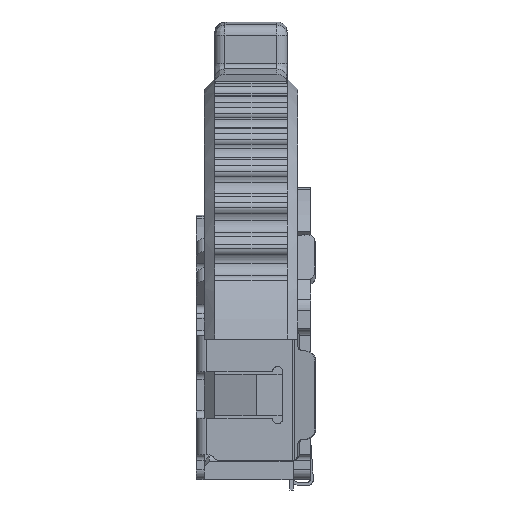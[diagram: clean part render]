
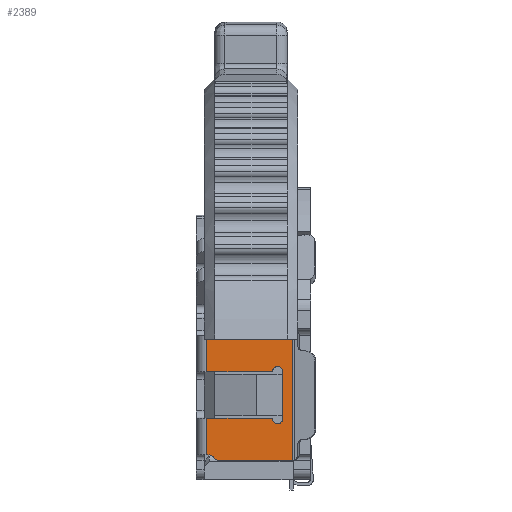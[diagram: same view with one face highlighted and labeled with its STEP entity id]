
A CAD part, left-side view. The second image highlights one B-rep face of the part: STEP entity #2389.
In plain terms, the highlighted planar face has unit normal (-1, 0, 0).
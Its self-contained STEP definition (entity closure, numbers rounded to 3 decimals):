
#1981 = EDGE_CURVE ( 'NONE', #2178, #1983, #14285, .T. ) ;
#1983 = VERTEX_POINT ( 'NONE', #14210 ) ;
#2090 = EDGE_CURVE ( 'NONE', #2122, #2100, #14713, .T. ) ;
#2100 = VERTEX_POINT ( 'NONE', #14719 ) ;
#2119 = VERTEX_POINT ( 'NONE', #14703 ) ;
#2121 = EDGE_CURVE ( 'NONE', #2119, #2122, #14672, .T. ) ;
#2122 = VERTEX_POINT ( 'NONE', #14660 ) ;
#2131 = VERTEX_POINT ( 'NONE', #14640 ) ;
#2153 = EDGE_CURVE ( 'NONE', #2172, #11863, #14700, .T. ) ;
#2161 = VERTEX_POINT ( 'NONE', #14696 ) ;
#2172 = VERTEX_POINT ( 'NONE', #14859 ) ;
#2177 = EDGE_CURVE ( 'NONE', #2161, #2178, #14842, .T. ) ;
#2178 = VERTEX_POINT ( 'NONE', #14791 ) ;
#2190 = EDGE_CURVE ( 'NONE', #2234, #11359, #14816, .T. ) ;
#2192 = VERTEX_POINT ( 'NONE', #14810 ) ;
#2207 = EDGE_CURVE ( 'NONE', #1983, #2172, #14882, .T. ) ;
#2209 = EDGE_CURVE ( 'NONE', #2131, #2192, #14876, .T. ) ;
#2222 = EDGE_CURVE ( 'NONE', #11360, #2161, #15040, .T. ) ;
#2234 = VERTEX_POINT ( 'NONE', #15039 ) ;
#2269 = ORIENTED_EDGE ( 'NONE', *, *, #2327, .F. ) ;
#2270 = ORIENTED_EDGE ( 'NONE', *, *, #2090, .F. ) ;
#2295 = EDGE_CURVE ( 'NONE', #11820, #11777, #14354, .T. ) ;
#2296 = ORIENTED_EDGE ( 'NONE', *, *, #1981, .F. ) ;
#2315 = ORIENTED_EDGE ( 'NONE', *, *, #2207, .F. ) ;
#2327 = EDGE_CURVE ( 'NONE', #2192, #2234, #15449, .T. ) ;
#2346 = ORIENTED_EDGE ( 'NONE', *, *, #2177, .F. ) ;
#2347 = ORIENTED_EDGE ( 'NONE', *, *, #2222, .F. ) ;
#2388 = ORIENTED_EDGE ( 'NONE', *, *, #2190, .F. ) ;
#2389 = ADVANCED_FACE ( 'NONE', ( #15505 ), #15572, .F. ) ;
#2391 = EDGE_LOOP ( 'NONE', ( #2392, #2414, #2393, #2394, #2315, #2296, #2346, #2347, #2398, #2388, #2269, #2395, #2396, #2270, #2425, #2426 ) ) ;
#2392 = ORIENTED_EDGE ( 'NONE', *, *, #12013, .T. ) ;
#2393 = ORIENTED_EDGE ( 'NONE', *, *, #11844, .F. ) ;
#2394 = ORIENTED_EDGE ( 'NONE', *, *, #2153, .F. ) ;
#2395 = ORIENTED_EDGE ( 'NONE', *, *, #2209, .F. ) ;
#2396 = ORIENTED_EDGE ( 'NONE', *, *, #2397, .F. ) ;
#2397 = EDGE_CURVE ( 'NONE', #2100, #2131, #15559, .T. ) ;
#2398 = ORIENTED_EDGE ( 'NONE', *, *, #11357, .T. ) ;
#2413 = EDGE_CURVE ( 'NONE', #11778, #2119, #15874, .T. ) ;
#2414 = ORIENTED_EDGE ( 'NONE', *, *, #2295, .F. ) ;
#2425 = ORIENTED_EDGE ( 'NONE', *, *, #2121, .F. ) ;
#2426 = ORIENTED_EDGE ( 'NONE', *, *, #2413, .F. ) ;
#9396 = DIRECTION ( 'NONE',  ( 0., -1., 0. ) ) ;
#9397 = VECTOR ( 'NONE', #9396, 1000. ) ;
#9400 = CARTESIAN_POINT ( 'NONE',  ( -4.675, 1.1, -0.725 ) ) ;
#9401 = LINE ( 'NONE', #9400, #9397 ) ;
#9442 = CARTESIAN_POINT ( 'NONE',  ( -4.675, 2., -0.725 ) ) ;
#9443 = CARTESIAN_POINT ( 'NONE',  ( -4.675, 1.956, -0.725 ) ) ;
#10330 = CARTESIAN_POINT ( 'NONE',  ( -4.675, 1.956, 1.575 ) ) ;
#10331 = CARTESIAN_POINT ( 'NONE',  ( -4.675, 2., 1.575 ) ) ;
#10582 = CARTESIAN_POINT ( 'NONE',  ( -4.675, 2., 0.875 ) ) ;
#10659 = CARTESIAN_POINT ( 'NONE',  ( -4.675, 0.738, 0.875 ) ) ;
#10675 = DIRECTION ( 'NONE',  ( 0., 1., 0. ) ) ;
#10676 = VECTOR ( 'NONE', #10675, 1000. ) ;
#10677 = CARTESIAN_POINT ( 'NONE',  ( -4.675, 1.177, 0.875 ) ) ;
#10678 = LINE ( 'NONE', #10677, #10676 ) ;
#11357 = EDGE_CURVE ( 'NONE', #11360, #11359, #9401, .T. ) ;
#11359 = VERTEX_POINT ( 'NONE', #9443 ) ;
#11360 = VERTEX_POINT ( 'NONE', #9442 ) ;
#11777 = VERTEX_POINT ( 'NONE', #10331 ) ;
#11778 = VERTEX_POINT ( 'NONE', #10330 ) ;
#11820 = VERTEX_POINT ( 'NONE', #10582 ) ;
#11844 = EDGE_CURVE ( 'NONE', #11863, #11820, #10678, .T. ) ;
#11863 = VERTEX_POINT ( 'NONE', #10659 ) ;
#12013 = EDGE_CURVE ( 'NONE', #11778, #11777, #24947, .T. ) ;
#14210 = CARTESIAN_POINT ( 'NONE',  ( -4.675, 0.538, -0.025 ) ) ;
#14211 = DIRECTION ( 'NONE',  ( 0., -1., 0. ) ) ;
#14212 = DIRECTION ( 'NONE',  ( -1., 0., 0. ) ) ;
#14279 = CARTESIAN_POINT ( 'NONE',  ( -4.675, 0.638, -0.025 ) ) ;
#14280 = AXIS2_PLACEMENT_3D ( 'NONE', #14279, #14212, #14211 ) ;
#14285 = CIRCLE ( 'NONE', #14280, 0.1 ) ;
#14344 = DIRECTION ( 'NONE',  ( 0., 0., 1. ) ) ;
#14346 = VECTOR ( 'NONE', #14344, 1000. ) ;
#14347 = CARTESIAN_POINT ( 'NONE',  ( -4.675, 2., 0.425 ) ) ;
#14354 = LINE ( 'NONE', #14347, #14346 ) ;
#14609 = CARTESIAN_POINT ( 'NONE',  ( -4.675, 0.638, 0.875 ) ) ;
#14640 = CARTESIAN_POINT ( 'NONE',  ( -4.675, 0.355, -0.825 ) ) ;
#14660 = CARTESIAN_POINT ( 'NONE',  ( -4.675, 1.783, 1.675 ) ) ;
#14661 = DIRECTION ( 'NONE',  ( 0., -1., 0. ) ) ;
#14663 = DIRECTION ( 'NONE',  ( 1., 0., 0. ) ) ;
#14670 = CARTESIAN_POINT ( 'NONE',  ( -4.675, 1.783, 1.575 ) ) ;
#14671 = AXIS2_PLACEMENT_3D ( 'NONE', #14670, #14663, #14661 ) ;
#14672 = CIRCLE ( 'NONE', #14671, 0.1 ) ;
#14696 = CARTESIAN_POINT ( 'NONE',  ( -4.675, 2., -0.025 ) ) ;
#14697 = DIRECTION ( 'NONE',  ( 0., -1., 0. ) ) ;
#14698 = DIRECTION ( 'NONE',  ( -1., 0., 0. ) ) ;
#14699 = AXIS2_PLACEMENT_3D ( 'NONE', #14609, #14698, #14697 ) ;
#14700 = CIRCLE ( 'NONE', #14699, 0.1 ) ;
#14703 = CARTESIAN_POINT ( 'NONE',  ( -4.675, 1.87, 1.625 ) ) ;
#14710 = DIRECTION ( 'NONE',  ( 0., -1., 0. ) ) ;
#14711 = VECTOR ( 'NONE', #14710, 1000. ) ;
#14712 = CARTESIAN_POINT ( 'NONE',  ( -4.675, 1.177, 1.675 ) ) ;
#14713 = LINE ( 'NONE', #14712, #14711 ) ;
#14719 = CARTESIAN_POINT ( 'NONE',  ( -4.675, 0.355, 1.675 ) ) ;
#14728 = DIRECTION ( 'NONE',  ( 0., -1., 0. ) ) ;
#14730 = VECTOR ( 'NONE', #14728, 1000. ) ;
#14776 = CARTESIAN_POINT ( 'NONE',  ( -4.675, 1.177, -0.025 ) ) ;
#14791 = CARTESIAN_POINT ( 'NONE',  ( -4.675, 0.738, -0.025 ) ) ;
#14810 = CARTESIAN_POINT ( 'NONE',  ( -4.675, 1.783, -0.825 ) ) ;
#14811 = DIRECTION ( 'NONE',  ( 0., -1., 0. ) ) ;
#14812 = DIRECTION ( 'NONE',  ( -1., 0., 0. ) ) ;
#14813 = CARTESIAN_POINT ( 'NONE',  ( -4.675, 1.956, -0.825 ) ) ;
#14815 = AXIS2_PLACEMENT_3D ( 'NONE', #14813, #14812, #14811 ) ;
#14816 = CIRCLE ( 'NONE', #14815, 0.1 ) ;
#14842 = LINE ( 'NONE', #14776, #14730 ) ;
#14859 = CARTESIAN_POINT ( 'NONE',  ( -4.675, 0.538, 0.875 ) ) ;
#14873 = DIRECTION ( 'NONE',  ( 0., 1., 0. ) ) ;
#14874 = VECTOR ( 'NONE', #14873, 1000. ) ;
#14875 = CARTESIAN_POINT ( 'NONE',  ( -4.675, 1.177, -0.825 ) ) ;
#14876 = LINE ( 'NONE', #14875, #14874 ) ;
#14879 = DIRECTION ( 'NONE',  ( 0., 0., 1. ) ) ;
#14880 = VECTOR ( 'NONE', #14879, 1000. ) ;
#14881 = CARTESIAN_POINT ( 'NONE',  ( -4.675, 0.538, 0.425 ) ) ;
#14882 = LINE ( 'NONE', #14881, #14880 ) ;
#14917 = CARTESIAN_POINT ( 'NONE',  ( -4.675, 2., 0.425 ) ) ;
#15032 = DIRECTION ( 'NONE',  ( 0., 0., 1. ) ) ;
#15039 = CARTESIAN_POINT ( 'NONE',  ( -4.675, 1.87, -0.775 ) ) ;
#15040 = LINE ( 'NONE', #14917, #15052 ) ;
#15052 = VECTOR ( 'NONE', #15032, 1000. ) ;
#15352 = AXIS2_PLACEMENT_3D ( 'NONE', #15418, #15548, #15547 ) ;
#15418 = CARTESIAN_POINT ( 'NONE',  ( -4.675, 1.783, -0.725 ) ) ;
#15449 = CIRCLE ( 'NONE', #15352, 0.1 ) ;
#15505 = FACE_OUTER_BOUND ( 'NONE', #2391, .T. ) ;
#15547 = DIRECTION ( 'NONE',  ( 0., -1., 0. ) ) ;
#15548 = DIRECTION ( 'NONE',  ( 1., 0., 0. ) ) ;
#15556 = DIRECTION ( 'NONE',  ( 0., 0., -1. ) ) ;
#15557 = VECTOR ( 'NONE', #15556, 1000. ) ;
#15558 = CARTESIAN_POINT ( 'NONE',  ( -4.675, 0.355, 0.425 ) ) ;
#15559 = LINE ( 'NONE', #15558, #15557 ) ;
#15563 = DIRECTION ( 'NONE',  ( 0., 0., 1. ) ) ;
#15565 = DIRECTION ( 'NONE',  ( 1., 0., 0. ) ) ;
#15567 = CARTESIAN_POINT ( 'NONE',  ( -4.675, 2., -0.825 ) ) ;
#15569 = AXIS2_PLACEMENT_3D ( 'NONE', #15567, #15565, #15563 ) ;
#15572 = PLANE ( 'NONE',  #15569 ) ;
#15746 = DIRECTION ( 'NONE',  ( -1., 0., 0. ) ) ;
#15747 = CARTESIAN_POINT ( 'NONE',  ( -4.675, 1.956, 1.675 ) ) ;
#15872 = AXIS2_PLACEMENT_3D ( 'NONE', #15747, #15746, #15877 ) ;
#15874 = CIRCLE ( 'NONE', #15872, 0.1 ) ;
#15877 = DIRECTION ( 'NONE',  ( 0., -1., 0. ) ) ;
#24944 = DIRECTION ( 'NONE',  ( 0., 1., 0. ) ) ;
#24945 = VECTOR ( 'NONE', #24944, 1000. ) ;
#24946 = CARTESIAN_POINT ( 'NONE',  ( -4.675, 1.1, 1.575 ) ) ;
#24947 = LINE ( 'NONE', #24946, #24945 ) ;
